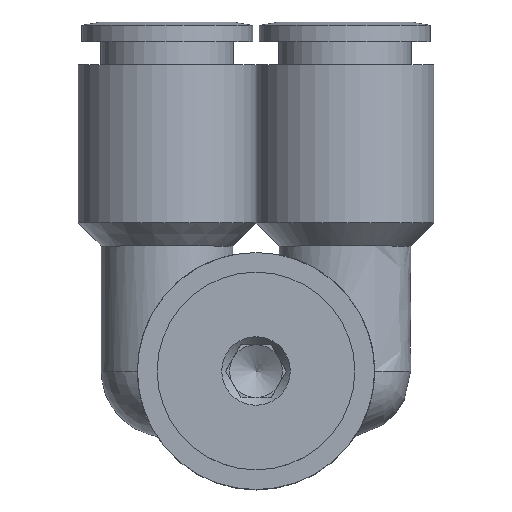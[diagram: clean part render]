
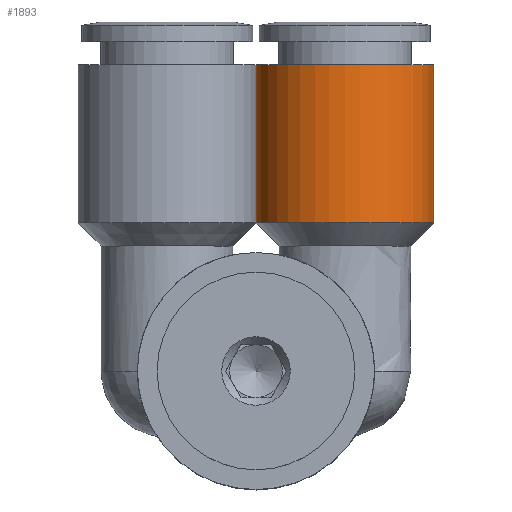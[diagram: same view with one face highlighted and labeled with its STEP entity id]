
A CAD part, top view. The second image highlights one B-rep face of the part: STEP entity #1893.
In plain terms, the highlighted free-form (B-spline) face has degree [1, 2] with [2, 9] control points.
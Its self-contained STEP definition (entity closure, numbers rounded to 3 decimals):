
#1828=CARTESIAN_POINT('',(0.,11.25,0.0));
#1829=VERTEX_POINT('',#1828);
#1830=CARTESIAN_POINT('',(6.75,11.25,0.0));
#1831=DIRECTION('',(0.0,-1.0,0.0));
#1832=DIRECTION('',(1.0,0.0,0.0));
#1833=AXIS2_PLACEMENT_3D('',#1830,#1831,#1832);
#1834=CIRCLE('',#1833,6.75);
#1835=EDGE_CURVE('',#1829,#1829,#1834,.T.);
#1843=CARTESIAN_POINT('',(0.,11.25,0.));
#1844=CARTESIAN_POINT('',(0.,23.25,0.));
#1845=CARTESIAN_POINT('',(0.,11.25,-6.75));
#1846=CARTESIAN_POINT('',(0.,23.25,-6.75));
#1847=CARTESIAN_POINT('',(6.75,11.25,-6.75));
#1848=CARTESIAN_POINT('',(6.75,23.25,-6.75));
#1849=CARTESIAN_POINT('',(13.5,11.25,-6.75));
#1850=CARTESIAN_POINT('',(13.5,23.25,-6.75));
#1851=CARTESIAN_POINT('',(13.5,11.25,0.));
#1852=CARTESIAN_POINT('',(13.5,23.25,0.));
#1853=CARTESIAN_POINT('',(13.5,11.25,6.75));
#1854=CARTESIAN_POINT('',(13.5,23.25,6.75));
#1855=CARTESIAN_POINT('',(6.75,11.25,6.75));
#1856=CARTESIAN_POINT('',(6.75,23.25,6.75));
#1857=CARTESIAN_POINT('',(0.,11.25,6.75));
#1858=CARTESIAN_POINT('',(0.,23.25,6.75));
#1859=CARTESIAN_POINT('',(0.,11.25,0.));
#1860=CARTESIAN_POINT('',(0.,23.25,0.));
#1868=(BOUNDED_SURFACE()B_SPLINE_SURFACE(1,2,((#1843,#1845,#1847,#1849,#1851,#1853,#1855,#1857,#1859),(#1844,#1846,#1848,#1850,#1852,#1854,#1856,#1858,#1860)),.UNSPECIFIED.,.F.,.T.,.U.)B_SPLINE_SURFACE_WITH_KNOTS((2,2),(3,2,2,2,3),(-0.889,0.889),(0.0,10.603,21.206,31.809,42.412),.UNSPECIFIED.)GEOMETRIC_REPRESENTATION_ITEM()RATIONAL_B_SPLINE_SURFACE(((1.0,0.707,1.0,0.707,1.0,0.707,1.0,0.707,1.0),(1.0,0.707,1.0,0.707,1.0,0.707,1.0,0.707,1.0)))REPRESENTATION_ITEM('')SURFACE());
#1869=CARTESIAN_POINT('',(0.0,23.25,0.0));
#1870=VERTEX_POINT('',#1869);
#1871=CARTESIAN_POINT('',(6.75,23.25,0.0));
#1872=DIRECTION('',(0.0,-1.0,0.0));
#1873=DIRECTION('',(1.0,0.0,0.0));
#1874=AXIS2_PLACEMENT_3D('',#1871,#1872,#1873);
#1875=CIRCLE('',#1874,6.75);
#1876=EDGE_CURVE('',#1870,#1870,#1875,.T.);
#1877=ORIENTED_EDGE('',*,*,#1876,.T.);
#1878=CARTESIAN_POINT('',(0.0,23.25,0.0));
#1879=DIRECTION('',(0.0,-1.0,0.0));
#1880=VECTOR('',#1879,12.);
#1881=LINE('',#1878,#1880);
#1882=EDGE_CURVE('',#1870,#1829,#1881,.T.);
#1883=ORIENTED_EDGE('',*,*,#1882,.T.);
#1884=ORIENTED_EDGE('',*,*,#1835,.F.);
#1885=CARTESIAN_POINT('',(0.0,23.25,0.0));
#1886=DIRECTION('',(0.0,-1.0,0.0));
#1887=VECTOR('',#1886,12.);
#1888=LINE('',#1885,#1887);
#1889=EDGE_CURVE('',#1870,#1829,#1888,.T.);
#1890=ORIENTED_EDGE('',*,*,#1889,.F.);
#1891=EDGE_LOOP('',(#1877,#1883,#1884,#1890));
#1892=FACE_OUTER_BOUND('',#1891,.T.);
#1893=ADVANCED_FACE('',(#1892),#1868,.T.);
